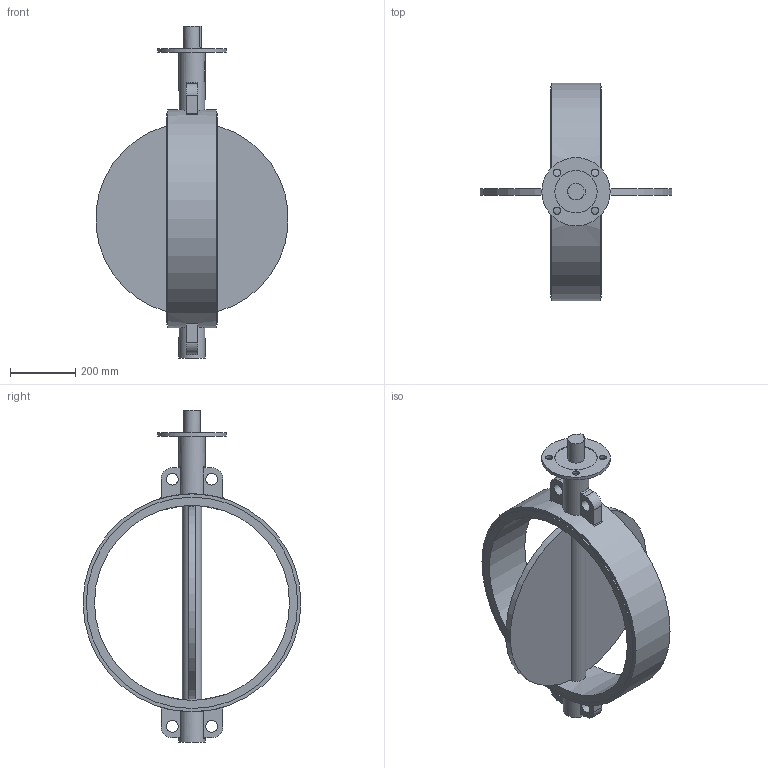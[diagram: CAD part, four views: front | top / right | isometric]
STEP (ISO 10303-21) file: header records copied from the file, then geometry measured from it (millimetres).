
FILE_DESCRIPTION(('STEP AP203'), '1');
FILE_NAME('青蜮铕 017W.YS_DN600_PN16', '', ('UNSPECIFIED'), ('UNSPECIFIED'), 'ASCON STEP Converter 1.6', 'ASCON Math Kernel', '');
FILE_SCHEMA(('CONFIG_CONTROL_DESIGN'));
Length unit declared in the file: millimetre
Bounding box: 590.27 x 670 x 1021 mm (x, y, z)
Volume: 19467710.7 mm3; surface area: 1550172.4 mm2
Topology: 1 solids, 1 shells, 89 faces, 220 edges, 146 vertices
Faces by surface type: plane 48, cylinder 37, torus 4
Full cylindrical faces by diameter (mm): 22 x4, 36 x4, 50.7 x1, 60 x1, 80 x2, 130 x1, 210 x1, 600 x1, 650 x2, 670 x1
Entity records: 4551 total; most frequent: CARTESIAN_POINT 1659, DIRECTION 452, ORIENTED_EDGE 404, EDGE_CURVE 202, AXIS2_PLACEMENT_3D 180, VERTEX_POINT 146, EDGE_LOOP 140, FACE_BOUND 107
